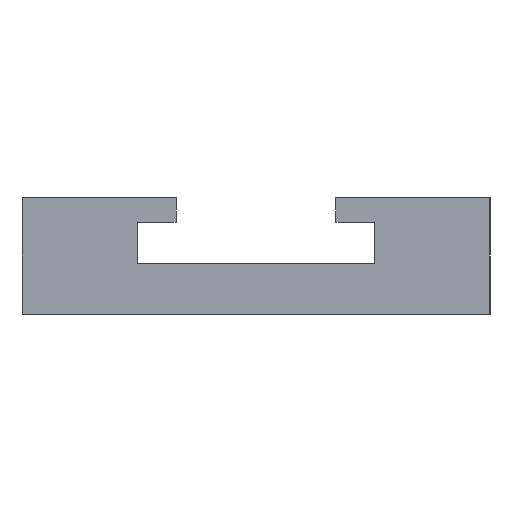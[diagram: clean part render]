
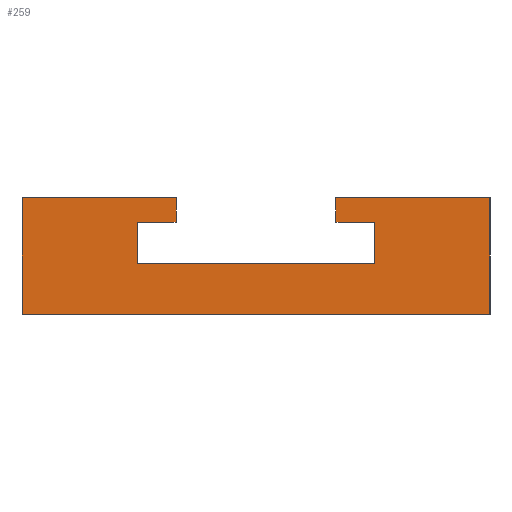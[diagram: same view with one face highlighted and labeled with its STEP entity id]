
A CAD part, left-side view. The second image highlights one B-rep face of the part: STEP entity #259.
In plain terms, the highlighted planar face has unit normal (-1, 0, 0).
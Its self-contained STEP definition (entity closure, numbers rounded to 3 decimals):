
#8 = EDGE_CURVE ( 'NONE', #234, #307, #51, .T. ) ;
#14 = VECTOR ( 'NONE', #386, 1000. ) ;
#19 = ORIENTED_EDGE ( 'NONE', *, *, #161, .F. ) ;
#23 = LINE ( 'NONE', #63, #40 ) ;
#32 = CARTESIAN_POINT ( 'NONE',  ( 0., 10.25, 15. ) ) ;
#33 = DIRECTION ( 'NONE',  ( 0., 0., -1. ) ) ;
#40 = VECTOR ( 'NONE', #245, 1000. ) ;
#46 = VECTOR ( 'NONE', #131, 1000. ) ;
#48 = VECTOR ( 'NONE', #254, 1000. ) ;
#51 = LINE ( 'NONE', #271, #322 ) ;
#52 = ORIENTED_EDGE ( 'NONE', *, *, #54, .F. ) ;
#54 = EDGE_CURVE ( 'NONE', #244, #361, #392, .T. ) ;
#62 = CARTESIAN_POINT ( 'NONE',  ( 0., -10.25, 11.8 ) ) ;
#63 = CARTESIAN_POINT ( 'NONE',  ( 0., 10.25, 11.8 ) ) ;
#66 = DIRECTION ( 'NONE',  ( 1., 0., 0. ) ) ;
#71 = VERTEX_POINT ( 'NONE', #321 ) ;
#81 = ORIENTED_EDGE ( 'NONE', *, *, #8, .F. ) ;
#89 = DIRECTION ( 'NONE',  ( 0., -1., 0. ) ) ;
#92 = VERTEX_POINT ( 'NONE', #320 ) ;
#94 = CARTESIAN_POINT ( 'NONE',  ( 0., -30., 0. ) ) ;
#98 = VERTEX_POINT ( 'NONE', #62 ) ;
#110 = DIRECTION ( 'NONE',  ( 0., 0., -1. ) ) ;
#111 = EDGE_CURVE ( 'NONE', #361, #92, #142, .T. ) ;
#120 = ORIENTED_EDGE ( 'NONE', *, *, #193, .F. ) ;
#131 = DIRECTION ( 'NONE',  ( 0., -1., 0. ) ) ;
#132 = CARTESIAN_POINT ( 'NONE',  ( 0., 30., 15. ) ) ;
#134 = EDGE_CURVE ( 'NONE', #71, #224, #23, .T. ) ;
#139 = DIRECTION ( 'NONE',  ( 0., 0., -1. ) ) ;
#141 = PLANE ( 'NONE',  #191 ) ;
#142 = LINE ( 'NONE', #132, #407 ) ;
#148 = DIRECTION ( 'NONE',  ( 0., 1., 0. ) ) ;
#161 = EDGE_CURVE ( 'NONE', #459, #340, #239, .T. ) ;
#164 = DIRECTION ( 'NONE',  ( 0., -1., 0. ) ) ;
#167 = DIRECTION ( 'NONE',  ( 0., 0., 1. ) ) ;
#168 = CARTESIAN_POINT ( 'NONE',  ( 0., -15.25, 6.5 ) ) ;
#169 = LINE ( 'NONE', #395, #457 ) ;
#183 = CARTESIAN_POINT ( 'NONE',  ( 0., -15.25, 6.5 ) ) ;
#188 = LINE ( 'NONE', #280, #46 ) ;
#189 = LINE ( 'NONE', #365, #465 ) ;
#191 = AXIS2_PLACEMENT_3D ( 'NONE', #329, #66, #209 ) ;
#193 = EDGE_CURVE ( 'NONE', #201, #459, #188, .T. ) ;
#194 = LINE ( 'NONE', #32, #255 ) ;
#200 = EDGE_CURVE ( 'NONE', #325, #244, #450, .T. ) ;
#201 = VERTEX_POINT ( 'NONE', #208 ) ;
#206 = DIRECTION ( 'NONE',  ( 0., 1., 0. ) ) ;
#208 = CARTESIAN_POINT ( 'NONE',  ( 0., 15.25, 6.5 ) ) ;
#209 = DIRECTION ( 'NONE',  ( 0., 0., -1. ) ) ;
#212 = ORIENTED_EDGE ( 'NONE', *, *, #243, .F. ) ;
#215 = CARTESIAN_POINT ( 'NONE',  ( 0., -30., 15. ) ) ;
#224 = VERTEX_POINT ( 'NONE', #420 ) ;
#234 = VERTEX_POINT ( 'NONE', #451 ) ;
#239 = LINE ( 'NONE', #168, #14 ) ;
#240 = CARTESIAN_POINT ( 'NONE',  ( 0., 30., 0. ) ) ;
#243 = EDGE_CURVE ( 'NONE', #92, #71, #194, .T. ) ;
#244 = VERTEX_POINT ( 'NONE', #391 ) ;
#245 = DIRECTION ( 'NONE',  ( 0., 1., 0. ) ) ;
#254 = DIRECTION ( 'NONE',  ( 0., 0., 1. ) ) ;
#255 = VECTOR ( 'NONE', #139, 1000. ) ;
#256 = CARTESIAN_POINT ( 'NONE',  ( 0., 30., 15. ) ) ;
#259 = ADVANCED_FACE ( 'NONE', ( #387 ), #141, .F. ) ;
#271 = CARTESIAN_POINT ( 'NONE',  ( 0., -10.25, 15. ) ) ;
#280 = CARTESIAN_POINT ( 'NONE',  ( 0., 15.25, 6.5 ) ) ;
#286 = VECTOR ( 'NONE', #110, 1000. ) ;
#292 = ORIENTED_EDGE ( 'NONE', *, *, #423, .F. ) ;
#294 = EDGE_CURVE ( 'NONE', #224, #201, #169, .T. ) ;
#299 = LINE ( 'NONE', #338, #286 ) ;
#301 = EDGE_LOOP ( 'NONE', ( #52, #452, #421, #81, #345, #292, #19, #120, #348, #379, #212, #309 ) ) ;
#305 = CARTESIAN_POINT ( 'NONE',  ( 0., -10.25, 11.8 ) ) ;
#307 = VERTEX_POINT ( 'NONE', #215 ) ;
#309 = ORIENTED_EDGE ( 'NONE', *, *, #111, .F. ) ;
#311 = VECTOR ( 'NONE', #167, 1000. ) ;
#320 = CARTESIAN_POINT ( 'NONE',  ( 0., 10.25, 15. ) ) ;
#321 = CARTESIAN_POINT ( 'NONE',  ( 0., 10.25, 11.8 ) ) ;
#322 = VECTOR ( 'NONE', #89, 1000. ) ;
#325 = VERTEX_POINT ( 'NONE', #333 ) ;
#329 = CARTESIAN_POINT ( 'NONE',  ( 0., 0., 0. ) ) ;
#333 = CARTESIAN_POINT ( 'NONE',  ( 0., -30., 0. ) ) ;
#338 = CARTESIAN_POINT ( 'NONE',  ( 0., -30., 15. ) ) ;
#340 = VERTEX_POINT ( 'NONE', #429 ) ;
#345 = ORIENTED_EDGE ( 'NONE', *, *, #383, .F. ) ;
#348 = ORIENTED_EDGE ( 'NONE', *, *, #294, .F. ) ;
#355 = LINE ( 'NONE', #305, #48 ) ;
#361 = VERTEX_POINT ( 'NONE', #256 ) ;
#365 = CARTESIAN_POINT ( 'NONE',  ( 0., -15.25, 11.8 ) ) ;
#379 = ORIENTED_EDGE ( 'NONE', *, *, #134, .F. ) ;
#383 = EDGE_CURVE ( 'NONE', #98, #234, #355, .T. ) ;
#386 = DIRECTION ( 'NONE',  ( 0., 0., 1. ) ) ;
#387 = FACE_OUTER_BOUND ( 'NONE', #301, .T. ) ;
#391 = CARTESIAN_POINT ( 'NONE',  ( 0., 30., 0. ) ) ;
#392 = LINE ( 'NONE', #240, #311 ) ;
#395 = CARTESIAN_POINT ( 'NONE',  ( 0., 15.25, 11.8 ) ) ;
#407 = VECTOR ( 'NONE', #164, 1000. ) ;
#411 = EDGE_CURVE ( 'NONE', #307, #325, #299, .T. ) ;
#420 = CARTESIAN_POINT ( 'NONE',  ( 0., 15.25, 11.8 ) ) ;
#421 = ORIENTED_EDGE ( 'NONE', *, *, #411, .F. ) ;
#423 = EDGE_CURVE ( 'NONE', #340, #98, #189, .T. ) ;
#429 = CARTESIAN_POINT ( 'NONE',  ( 0., -15.25, 11.8 ) ) ;
#430 = VECTOR ( 'NONE', #206, 1000. ) ;
#450 = LINE ( 'NONE', #94, #430 ) ;
#451 = CARTESIAN_POINT ( 'NONE',  ( 0., -10.25, 15. ) ) ;
#452 = ORIENTED_EDGE ( 'NONE', *, *, #200, .F. ) ;
#457 = VECTOR ( 'NONE', #33, 1000. ) ;
#459 = VERTEX_POINT ( 'NONE', #183 ) ;
#465 = VECTOR ( 'NONE', #148, 1000. ) ;
